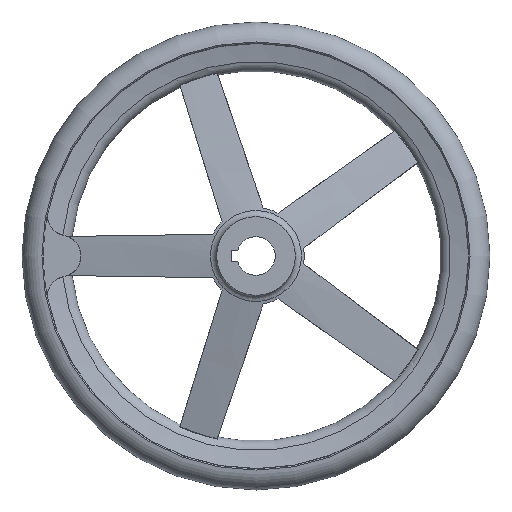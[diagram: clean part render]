
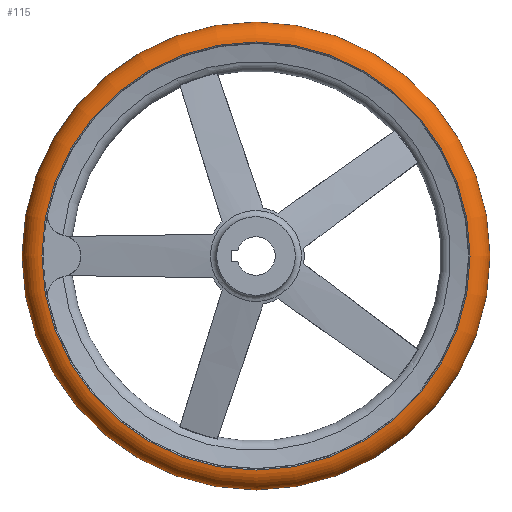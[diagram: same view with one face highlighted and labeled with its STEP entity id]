
A CAD part, left-side view. The second image highlights one B-rep face of the part: STEP entity #115.
In plain terms, the highlighted toroidal (fillet/blend) face has major radius 143.487 mm and minor radius 14.013 mm.
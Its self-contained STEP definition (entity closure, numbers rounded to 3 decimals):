
#115 = ADVANCED_FACE( '', ( #229, #230, #231 ), #232, .T. );
#229 = FACE_BOUND( '', #367, .T. );
#230 = FACE_OUTER_BOUND( '', #368, .T. );
#231 = FACE_OUTER_BOUND( '', #369, .T. );
#232 = TOROIDAL_SURFACE( '', #370, 143.487, 14.013 );
#367 = VERTEX_LOOP( '', #755 );
#368 = EDGE_LOOP( '', ( #756 ) );
#369 = EDGE_LOOP( '', ( #757 ) );
#370 = AXIS2_PLACEMENT_3D( '', #758, #759, #760 );
#755 = VERTEX_POINT( '', #1056 );
#756 = ORIENTED_EDGE( '', *, *, #1057, .T. );
#757 = ORIENTED_EDGE( '', *, *, #1055, .F. );
#758 = CARTESIAN_POINT( '', ( 42., 0., 0. ) );
#759 = DIRECTION( '', ( -1., 0., 0. ) );
#760 = DIRECTION( '', ( 0., -1., 0. ) );
#1055 = EDGE_CURVE( '', #1324, #1324, #1325, .T. );
#1056 = CARTESIAN_POINT( '', ( 42., -157.5, 0. ) );
#1057 = EDGE_CURVE( '', #1326, #1326, #1327, .T. );
#1324 = VERTEX_POINT( '', #2233 );
#1325 = CIRCLE( '', #2234, 144.083 );
#1326 = VERTEX_POINT( '', #2235 );
#1327 = CIRCLE( '', #2236, 144.083 );
#2233 = CARTESIAN_POINT( '', ( 28., -144.083, 0. ) );
#2234 = AXIS2_PLACEMENT_3D( '', #2523, #2524, #2525 );
#2235 = CARTESIAN_POINT( '', ( 56., -144.083, 0. ) );
#2236 = AXIS2_PLACEMENT_3D( '', #2526, #2527, #2528 );
#2523 = CARTESIAN_POINT( '', ( 28., 0., 0. ) );
#2524 = DIRECTION( '', ( -1., 0., 0. ) );
#2525 = DIRECTION( '', ( 0., -1., 0. ) );
#2526 = CARTESIAN_POINT( '', ( 56., 0., 0. ) );
#2527 = DIRECTION( '', ( -1., 0., 0. ) );
#2528 = DIRECTION( '', ( 0., -1., 0. ) );
